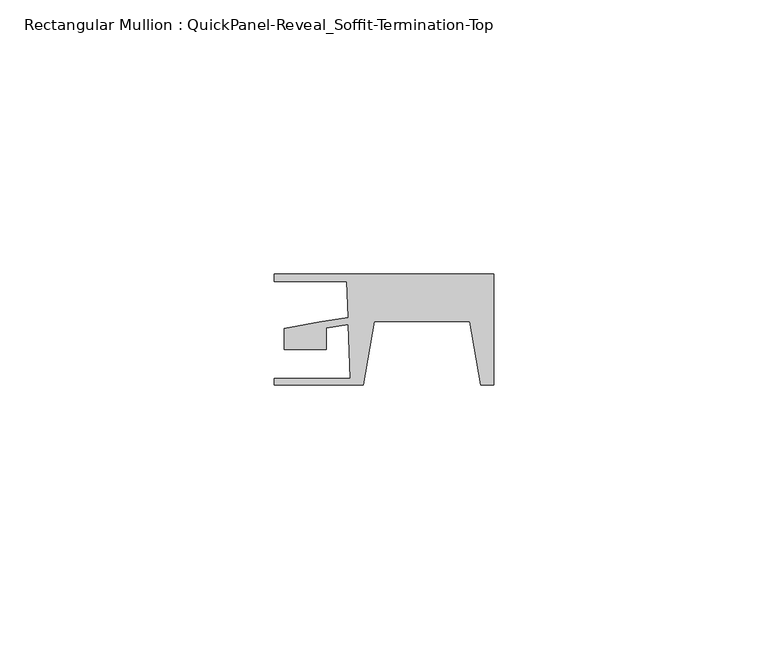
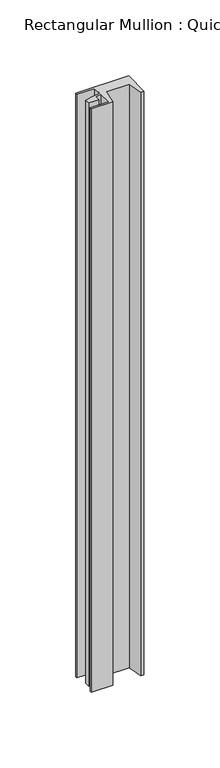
"""IFC4 building model written with IfcOpenShell, lengths in millimetres: member geometry, Rectangular Mullion : QuickPanel-Reveal_Soffit-Termination-Top."""

import ifcopenshell
import ifcopenshell.guid

model = None  # the IFC model being written
_history = None  # IfcOwnerHistory: only IFC2X3 demands one
_inside = {}  # id of a spatial element -> (the spatial element, [elements in it])
_under = {}  # id of a project, library or spatial element -> (it, [spatial elements below it])
_declared = {}  # id of a project -> (the project, [libraries it declares])
_typed = {}  # id of a type object -> (the type object, [elements of that type])
_made_of = {}  # id of a material, layer set ... -> (it, [elements and type objects made of it])


def new_model(schema):
    """Start an empty IFC model of exactly this schema.

    Asked for "IFC4X3", IfcOpenShell would pick the latest addendum, in which some entities
    have other attributes; the version numbers below select the first issue.
    IFC2X3 requires an IfcOwnerHistory on every rooted entity: one is made here for all.
    """
    global model, _history
    if schema == "IFC4X3":
        model = ifcopenshell.file(schema_version=(4, 3, 0, 0))
    else:
        model = ifcopenshell.file(schema=schema)
    _inside.clear()
    _under.clear()
    _declared.clear()
    _typed.clear()
    _made_of.clear()
    _history = None
    if model.schema == "IFC2X3":
        org = make("IfcOrganization", Name="unknown")
        user = make(
            "IfcPersonAndOrganization",
            ThePerson=make("IfcPerson", FamilyName="unknown"),
            TheOrganization=org,
        )
        app = make(
            "IfcApplication",
            ApplicationDeveloper=org,
            Version="unknown",
            ApplicationFullName="unknown",
            ApplicationIdentifier="unknown",
        )
        _history = make(
            "IfcOwnerHistory",
            OwningUser=user,
            OwningApplication=app,
            ChangeAction="ADDED",
            CreationDate=0,
        )
    return model


def make(cls, **values):
    """One entity of the class cls with the attributes given. An attribute that is None is left unset."""
    return model.create_entity(
        cls, **{name: value for name, value in values.items() if value is not None}
    )


def rooted(cls, **values):
    """An entity with a GlobalId (a new one), such as an element, a storey or a relation."""
    return make(cls, GlobalId=ifcopenshell.guid.new(), OwnerHistory=_history, **values)


def si_unit(unit_type, name, prefix=None):
    """IfcSIUnit, for example si_unit("LENGTHUNIT", "METRE", prefix="MILLI")."""
    return make("IfcSIUnit", UnitType=unit_type, Prefix=prefix, Name=name)


def assignment(units):
    """IfcUnitAssignment: the units of a project."""
    return None if units is None else make("IfcUnitAssignment", Units=units)


def point(xyz):
    """IfcCartesianPoint."""
    return None if xyz is None else make("IfcCartesianPoint", Coordinates=xyz)


def direction(xyz):
    """IfcDirection."""
    return None if xyz is None else make("IfcDirection", DirectionRatios=xyz)


def frame(location, z_axis=None, x_axis=None):
    """IfcAxis2Placement3D, a coordinate frame: its origin and axes. An axis left out is left unset."""
    return make(
        "IfcAxis2Placement3D",
        Location=point(location),
        Axis=direction(z_axis),
        RefDirection=direction(x_axis),
    )


def origin():
    """The frame at (0, 0, 0) with its axes left unset."""
    return frame((0.0, 0.0, 0.0))


def place(relative_to, where):
    """IfcLocalPlacement: puts the frame where relative to a parent placement (None: the world)."""
    return make(
        "IfcLocalPlacement", PlacementRelTo=relative_to, RelativePlacement=where
    )


def context(
    kind, dimensions, precision=None, world=None, true_north=None, identifier=None
):
    """IfcGeometricRepresentationContext, for example the 3D "Model" context."""
    return make(
        "IfcGeometricRepresentationContext",
        ContextIdentifier=identifier,
        ContextType=kind,
        CoordinateSpaceDimension=dimensions,
        Precision=precision,
        WorldCoordinateSystem=world,
        TrueNorth=true_north,
    )


def project(units=None, contexts=None):
    """IfcProject with its units and contexts."""
    return rooted(
        "IfcProject",
        Name="project",
        RepresentationContexts=contexts,
        UnitsInContext=assignment(units),
    )


def spatial(cls, under=None, at=None, **own):
    """A site, building, storey or space (cls), placed at a placement, below another one or the project."""
    s = rooted(cls, ObjectPlacement=at, **own)
    if under is not None:
        _under.setdefault(under.id(), (under, []))[1].append(s)
    return s


def polyline(points):
    """IfcPolyline through the points."""
    return make("IfcPolyline", Points=[point(p) for p in points])


def outline(outer, holes=None, kind="AREA"):
    """IfcArbitraryClosedProfileDef: a profile drawn as a closed curve; with holes, ...WithVoids."""
    if holes is None:
        return make("IfcArbitraryClosedProfileDef", ProfileType=kind, OuterCurve=outer)
    return make(
        "IfcArbitraryProfileDefWithVoids",
        ProfileType=kind,
        OuterCurve=outer,
        InnerCurves=holes,
    )


def extrude(swept, where, along, depth):
    """IfcExtrudedAreaSolid: the profile swept, set in the frame where, extruded along a direction by depth."""
    return make(
        "IfcExtrudedAreaSolid",
        SweptArea=swept,
        Position=where,
        ExtrudedDirection=direction(along),
        Depth=depth,
    )


def shape(context_of_items, identifier, shape_type, items):
    """IfcShapeRepresentation: the items that make up one representation, for example the "Body"."""
    return make(
        "IfcShapeRepresentation",
        ContextOfItems=context_of_items,
        RepresentationIdentifier=identifier,
        RepresentationType=shape_type,
        Items=items,
    )


def source(mapping_origin, context_of_items, identifier, shape_type, items):
    """IfcRepresentationMap: a shape defined once, which mapped items show again and again."""
    return make(
        "IfcRepresentationMap",
        MappingOrigin=mapping_origin,
        MappedRepresentation=shape(context_of_items, identifier, shape_type, items),
    )


def transform(
    local_origin,
    x_axis=None,
    y_axis=None,
    z_axis=None,
    scale=None,
    scale2=None,
    scale3=None,
    uniform=True,
):
    """IfcCartesianTransformationOperator3D, or its non-uniform kind. x_axis, y_axis, z_axis: its Axis1, 2, 3."""
    if uniform:
        return make(
            "IfcCartesianTransformationOperator3D",
            Axis1=direction(x_axis),
            Axis2=direction(y_axis),
            LocalOrigin=point(local_origin),
            Scale=scale,
            Axis3=direction(z_axis),
        )
    return make(
        "IfcCartesianTransformationOperator3DnonUniform",
        Axis1=direction(x_axis),
        Axis2=direction(y_axis),
        LocalOrigin=point(local_origin),
        Scale=scale,
        Axis3=direction(z_axis),
        Scale2=scale2,
        Scale3=scale3,
    )


def mapped(mapping_source, mapping_target):
    """IfcMappedItem: shows the shape of a source again, moved by a transform."""
    return make(
        "IfcMappedItem", MappingSource=mapping_source, MappingTarget=mapping_target
    )


def made_of(thing, what):
    """Note that an element or type object is made of a material, layer set ...; save() writes the relation."""
    if what is not None:
        _made_of.setdefault(what.id(), (what, []))[1].append(thing)
    return thing


def element(
    cls,
    number,
    at=None,
    inside=None,
    cuts=None,
    type_object=None,
    material=None,
    context=None,
    identifier="Body",
    shape_type=None,
    held_by="IfcProductDefinitionShape",
    body=None,
    shapes=None,
    **own,
):
    """One element of the class cls, such as IfcWall. Its Tag is "e" and its number.

    at: its placement. inside: the storey or other place that contains it. cuts: it is an
    opening in that element (IfcRelVoidsElement). A single representation is given by context,
    identifier, shape_type and body (its items); several are given by shapes. held_by: the class
    of the entity that holds the representations. save() writes the other relations.
    """
    e = rooted(cls, Tag="e%d" % number, ObjectPlacement=at, **own)
    if body is not None:
        shapes = [shape(context, identifier, shape_type, body)]
    if shapes is not None:
        e.Representation = make(held_by, Representations=shapes)
    if inside is not None:
        _inside.setdefault(inside.id(), (inside, []))[1].append(e)
    if cuts is not None:
        rooted(
            "IfcRelVoidsElement", RelatingBuildingElement=cuts, RelatedOpeningElement=e
        )
    if type_object is not None:
        _typed.setdefault(type_object.id(), (type_object, []))[1].append(e)
    return made_of(e, material)


def aggregate(whole, parts):
    """IfcRelAggregates: a whole, such as a stair, and the parts it consists of."""
    return rooted("IfcRelAggregates", RelatingObject=whole, RelatedObjects=parts)


def save(model, path):
    """Write the relations noted so far, then the file.

    IfcRelAggregates (storeys below a building ...), IfcRelContainedInSpatialStructure (elements
    in a storey), IfcRelDefinesByType, IfcRelAssociatesMaterial and IfcRelDeclares: one each for
    every whole, place, type object, material and project.
    """
    for whole, parts in _under.values():
        aggregate(whole, parts)
    for where, things in _inside.values():
        rooted(
            "IfcRelContainedInSpatialStructure",
            RelatedElements=things,
            RelatingStructure=where,
        )
    for kind, things in _typed.values():
        rooted("IfcRelDefinesByType", RelatedObjects=things, RelatingType=kind)
    for what, things in _made_of.values():
        rooted("IfcRelAssociatesMaterial", RelatedObjects=things, RelatingMaterial=what)
    for by, libraries in _declared.values():
        rooted("IfcRelDeclares", RelatingContext=by, RelatedDefinitions=libraries)
    model.write(path)


def rectangular_mullion_quickpanel_reveal_soffit_termination_top_86654360(model_context):
    return source(origin(), model_context, "Body", "SweptSolid", [
        extrude(outline(polyline([(-40.0272216, 8.095605), (0.0, 8.095605), (0.0, -12.1803727), (-2.3566489, -12.1803727), (-4.3518779, -0.5417732), (-21.8189903, -0.5417732), (-23.8142192, -12.1803727), (-40.0272216, -12.1803727), (-40.0272216, -10.9303752), (-26.1708682, -10.9303752), (-26.5147952, -1.0815922), (-30.5003642, -1.7648465), (-30.5003642, -5.6493034), (-38.2451373, -5.6493034), (-38.2451373, -1.8040245), (-31.8098046, -0.7008023), (-26.5595237, 0.1992641), (-26.7863089, 6.6935423), (-40.0272216, 6.6935423), (-40.0272216, 8.095605)])), frame((0.0, 0.0, -469.0700779), z_axis=(0.0, 0.0, 1.0), x_axis=(1.0, 0.0, 0.0)), (0.0, 0.0, 1.0), 469.0700779),
    ])


if __name__ == "__main__":
    model = new_model("IFC4")
    model_context = context("Model", 3, world=origin())
    ifc_project = project(units=[si_unit("LENGTHUNIT", "METRE", prefix="MILLI")], contexts=[model_context])
    site = spatial("IfcSite", under=ifc_project)
    building = spatial("IfcBuilding", under=site)
    placement = place(None, origin())
    rectangular_mullion_quickpanel_reveal_soffit_termination_top_shape = rectangular_mullion_quickpanel_reveal_soffit_termination_top_86654360(model_context)
    element("IfcMember", 1, ObjectType="Rectangular Mullion : QuickPanel-Reveal_Soffit-Termination-Top", at=placement, inside=building, context=model_context, shape_type="MappedRepresentation", body=[
        mapped(rectangular_mullion_quickpanel_reveal_soffit_termination_top_shape, transform((0.0, 0.0, 0.0), x_axis=(1.0, 0.0, 0.0), y_axis=(0.0, 1.0, 0.0), z_axis=(0.0, 0.0, 1.0))),
    ])
    save(model, "model.ifc")
